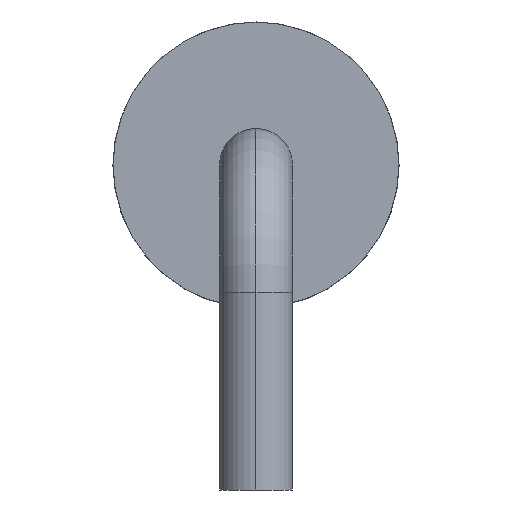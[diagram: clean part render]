
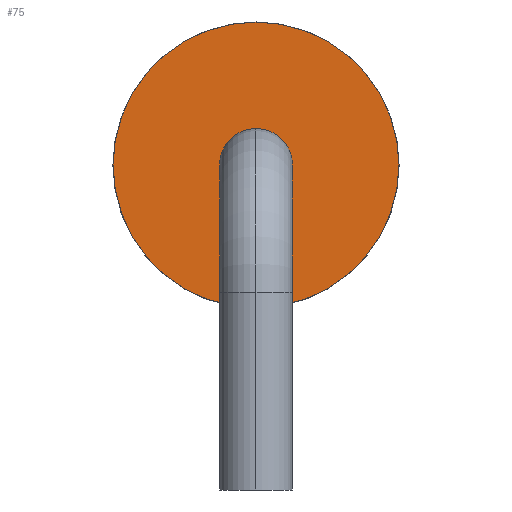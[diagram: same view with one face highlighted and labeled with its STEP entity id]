
A CAD part, left-side view. The second image highlights one B-rep face of the part: STEP entity #75.
In plain terms, the highlighted planar face has unit normal (-1, 0, 0).
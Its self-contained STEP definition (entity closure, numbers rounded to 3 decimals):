
#75=ADVANCED_FACE($,(#81),#77,.T.);
#77=PLANE($,#102);
#81=FACE_OUTER_BOUND($,#85,.T.);
#85=EDGE_LOOP($,(#95));
#86=CIRCLE($,#99,1.994);
#88=VERTEX_POINT('',#117);
#90=EDGE_CURVE($,#88,#88,#86,.T.);
#95=ORIENTED_EDGE($,*,*,#90,.T.);
#99=AXIS2_PLACEMENT_3D($,#118,#107,#108);
#102=AXIS2_PLACEMENT_3D($,#122,#113,#114);
#107=DIRECTION('',(-1.,0.,0.));
#108=DIRECTION('',(0.,0.,1.));
#113=DIRECTION('',(-1.,0.,0.));
#114=DIRECTION('',(0.,1.,0.));
#117=CARTESIAN_POINT('',(4.089,0.0,0.0));
#118=CARTESIAN_POINT('',(4.089,0.0,1.994));
#122=CARTESIAN_POINT('',(4.089,0.0,1.994));
